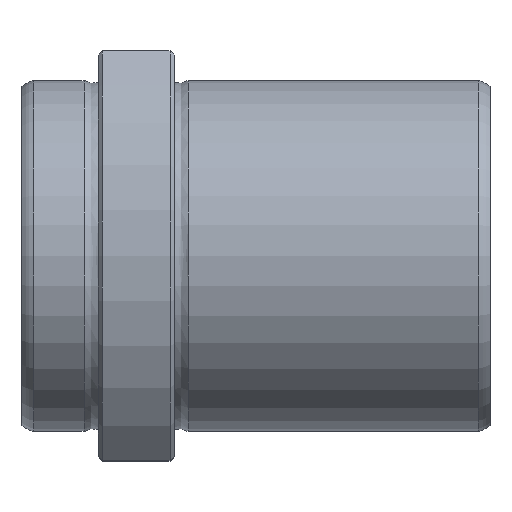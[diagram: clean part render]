
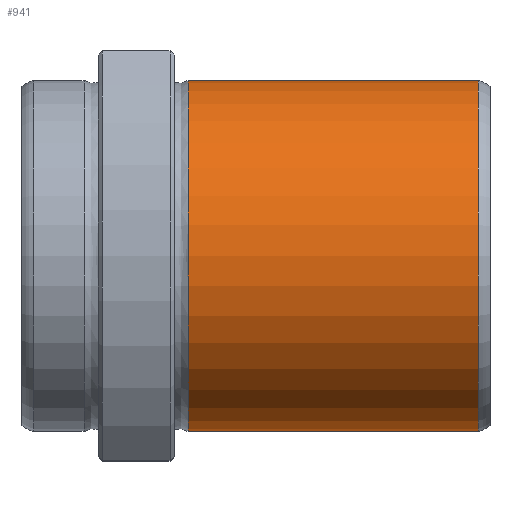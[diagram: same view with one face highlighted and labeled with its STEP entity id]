
A CAD part, top view. The second image highlights one B-rep face of the part: STEP entity #941.
In plain terms, the highlighted cylindrical face has radius 30 mm (diameter 60 mm), a full revolution.
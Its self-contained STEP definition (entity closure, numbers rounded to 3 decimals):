
#907=CARTESIAN_POINT('',(78.016,0.0,30.));
#908=VERTEX_POINT('',#907);
#909=CARTESIAN_POINT('',(78.016,0.0,0.0));
#910=DIRECTION('',(-1.0,0.0,0.0));
#911=DIRECTION('',(0.0,0.0,1.0));
#912=AXIS2_PLACEMENT_3D('',#909,#910,#911);
#913=CIRCLE('',#912,30.);
#914=EDGE_CURVE('',#908,#908,#913,.T.);
#922=CARTESIAN_POINT('',(53.208,0.0,0.0));
#923=DIRECTION('',(-1.0,0.0,0.0));
#924=DIRECTION('',(0.0,0.0,1.0));
#925=AXIS2_PLACEMENT_3D('',#922,#923,#924);
#926=CYLINDRICAL_SURFACE('',#925,30.);
#927=CARTESIAN_POINT('',(28.4,0.0,30.));
#928=VERTEX_POINT('',#927);
#929=CARTESIAN_POINT('',(28.4,0.0,0.0));
#930=DIRECTION('',(-1.0,0.0,0.0));
#931=DIRECTION('',(0.0,0.0,1.0));
#932=AXIS2_PLACEMENT_3D('',#929,#930,#931);
#933=CIRCLE('',#932,30.);
#934=EDGE_CURVE('',#928,#928,#933,.T.);
#935=ORIENTED_EDGE('',*,*,#934,.F.);
#936=EDGE_LOOP('',(#935));
#937=FACE_OUTER_BOUND('',#936,.T.);
#938=ORIENTED_EDGE('',*,*,#914,.T.);
#939=EDGE_LOOP('',(#938));
#940=FACE_BOUND('',#939,.T.);
#941=ADVANCED_FACE('',(#937,#940),#926,.T.);
